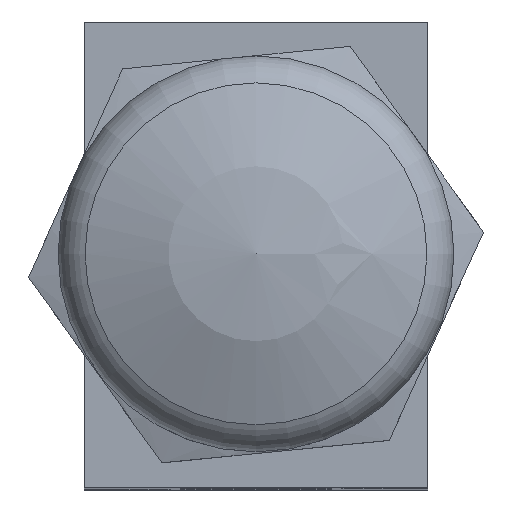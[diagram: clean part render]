
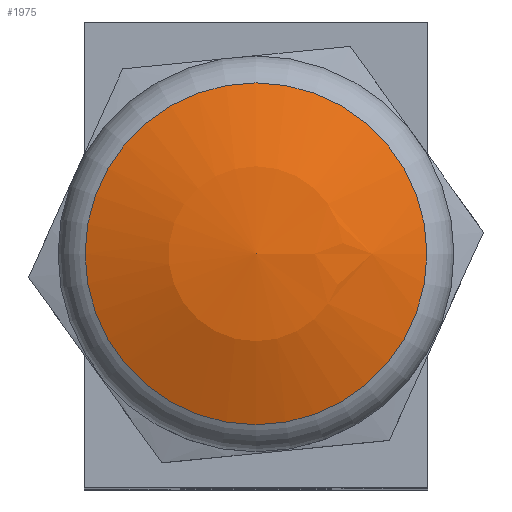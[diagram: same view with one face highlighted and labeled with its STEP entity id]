
A CAD part, top view. The second image highlights one B-rep face of the part: STEP entity #1975.
In plain terms, the highlighted spherical face has radius 35 mm.
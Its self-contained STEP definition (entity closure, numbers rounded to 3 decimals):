
#1952=CARTESIAN_POINT('',(0.0,-14.677,100.774));
#1953=VERTEX_POINT('',#1952);
#1954=CARTESIAN_POINT('',(0.0,0.0,100.774));
#1955=DIRECTION('',(0.0,0.0,1.0));
#1956=DIRECTION('',(0.0,-1.0,0.0));
#1957=AXIS2_PLACEMENT_3D('',#1954,#1955,#1956);
#1958=CIRCLE('',#1957,14.677);
#1959=EDGE_CURVE('',#1953,#1953,#1958,.T.);
#1967=CARTESIAN_POINT('',(0.0,0.,69.));
#1968=DIRECTION('',(0.0,0.0,1.0));
#1969=DIRECTION('',(1.0,0.0,0.0));
#1970=AXIS2_PLACEMENT_3D('',#1967,#1968,#1969);
#1971=SPHERICAL_SURFACE('',#1970,35.0);
#1972=ORIENTED_EDGE('',*,*,#1959,.T.);
#1973=EDGE_LOOP('',(#1972));
#1974=FACE_OUTER_BOUND('',#1973,.T.);
#1975=ADVANCED_FACE('',(#1974),#1971,.T.);
